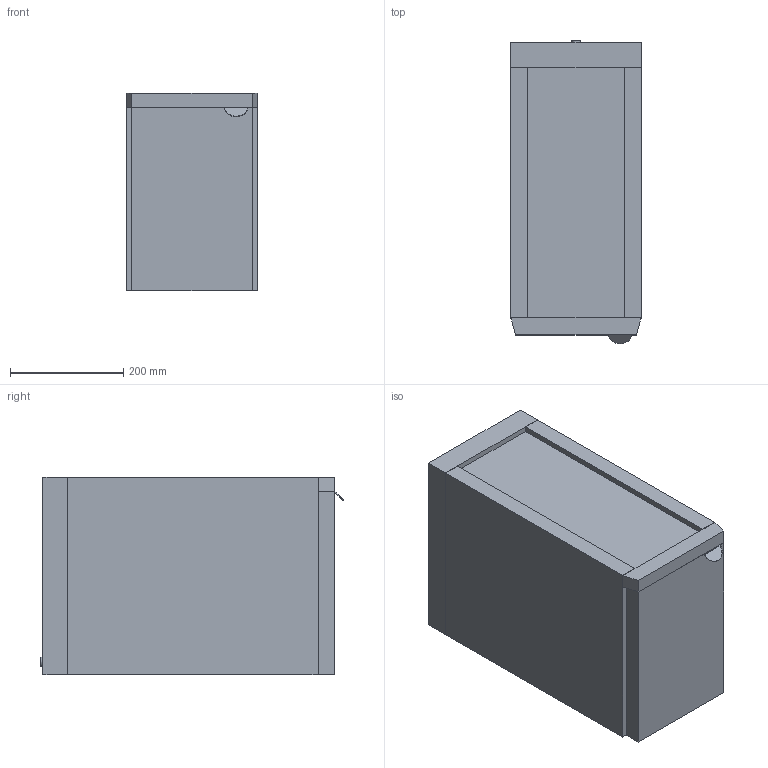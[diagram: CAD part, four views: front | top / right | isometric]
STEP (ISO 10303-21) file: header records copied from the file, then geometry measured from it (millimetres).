
FILE_DESCRIPTION(/* description */ (''),/* implementation_level */ '2;1');
FILE_NAME(/* name */ 'D:\Projekte\WMF\am\kuehler\03_9192_6011\3D\03_9192_6011_3D.stp',/* time_stamp */ '2016-01-31T09:03:59+01:00',/* author */ ('AM'),/* organization */ (''),/* preprocessor_version */ 'ST-DEVELOPER v15.2',/* originating_system */ 'Autodesk Inventor 2014',/* authorisation */ '');
FILE_SCHEMA (('AUTOMOTIVE_DESIGN { 1 0 10303 214 3 1 1 }'));
Length unit declared in the file: millimetre
Products named in the file (1): 03_9192_6011_3D
Bounding box: 230 x 536.98 x 350 mm (x, y, z)
Volume: 40643443.4 mm3; surface area: 786211.1 mm2
Topology: 1 solids, 1 shells, 45 faces, 114 edges, 74 vertices
Faces by surface type: plane 41, cylinder 3, bspline 1
Full cylindrical faces by diameter (mm): 16 x1
Entity records: 1354 total; most frequent: CARTESIAN_POINT 242, ORIENTED_EDGE 226, DIRECTION 213, EDGE_CURVE 113, LINE 103, VECTOR 103, VERTEX_POINT 74, AXIS2_PLACEMENT_3D 55
